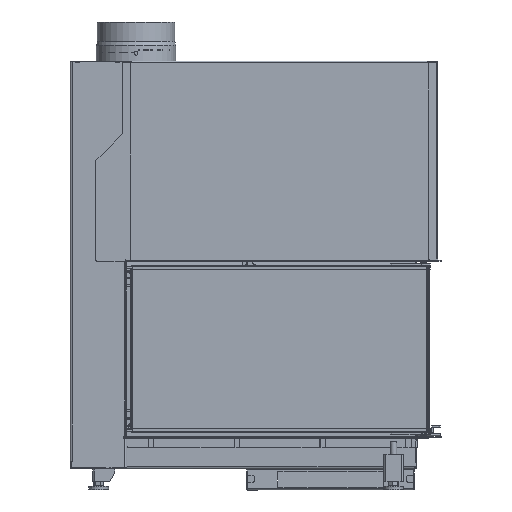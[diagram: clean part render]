
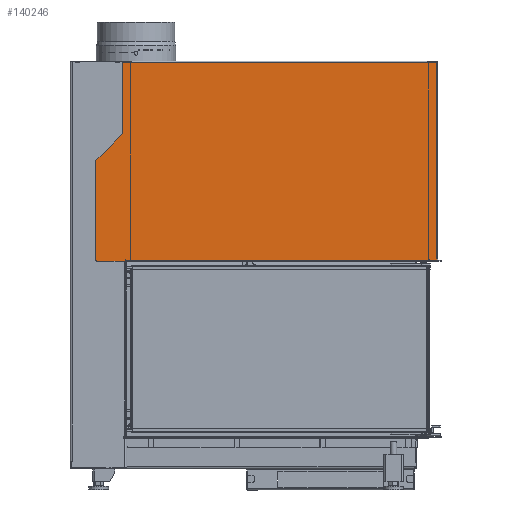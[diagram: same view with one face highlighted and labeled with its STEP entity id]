
A CAD part, left-side view. The second image highlights one B-rep face of the part: STEP entity #140246.
In plain terms, the highlighted planar face has unit normal (-1, 0, 0).
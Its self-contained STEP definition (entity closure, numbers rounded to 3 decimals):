
#2705=CIRCLE('',#149018,3.);
#2706=CIRCLE('',#149019,1.);
#2707=CIRCLE('',#149020,0.1);
#2708=CIRCLE('',#149021,3.);
#2709=CIRCLE('',#149022,3.);
#2710=CIRCLE('',#149023,0.1);
#2711=CIRCLE('',#149024,3.);
#2712=CIRCLE('',#149025,3.);
#7749=PLANE('',#149017);
#16329=FACE_OUTER_BOUND('',#24053,.T.);
#24053=EDGE_LOOP('',(#100440,#100441,#100442,#100443,#100444,#100445,#100446,
#100447,#100448,#100449,#100450,#100451,#100452,#100453,#100454,#100455,
#100456,#100457,#100458));
#33851=LINE('',#211555,#47875);
#33852=LINE('',#211559,#47876);
#33853=LINE('',#211563,#47877);
#33854=LINE('',#211565,#47878);
#33855=LINE('',#211567,#47879);
#33856=LINE('',#211571,#47880);
#33857=LINE('',#211577,#47881);
#33858=LINE('',#211579,#47882);
#33859=LINE('',#211581,#47883);
#33860=LINE('',#211585,#47884);
#33861=LINE('',#211588,#47885);
#47875=VECTOR('',#166588,10.);
#47876=VECTOR('',#166591,10.);
#47877=VECTOR('',#166594,10.);
#47878=VECTOR('',#166595,10.);
#47879=VECTOR('',#166596,10.);
#47880=VECTOR('',#166599,10.);
#47881=VECTOR('',#166604,10.);
#47882=VECTOR('',#166605,10.);
#47883=VECTOR('',#166606,10.);
#47884=VECTOR('',#166609,10.);
#47885=VECTOR('',#166612,10.);
#62036=VERTEX_POINT('',#211551);
#62037=VERTEX_POINT('',#211552);
#62038=VERTEX_POINT('',#211554);
#62039=VERTEX_POINT('',#211556);
#62040=VERTEX_POINT('',#211558);
#62041=VERTEX_POINT('',#211560);
#62042=VERTEX_POINT('',#211562);
#62043=VERTEX_POINT('',#211564);
#62044=VERTEX_POINT('',#211566);
#62045=VERTEX_POINT('',#211568);
#62046=VERTEX_POINT('',#211570);
#62047=VERTEX_POINT('',#211572);
#62048=VERTEX_POINT('',#211574);
#62049=VERTEX_POINT('',#211576);
#62050=VERTEX_POINT('',#211578);
#62051=VERTEX_POINT('',#211580);
#62052=VERTEX_POINT('',#211582);
#62053=VERTEX_POINT('',#211584);
#62054=VERTEX_POINT('',#211586);
#76455=EDGE_CURVE('',#62036,#62037,#2705,.T.);
#76456=EDGE_CURVE('',#62038,#62036,#33851,.T.);
#76457=EDGE_CURVE('',#62039,#62038,#2706,.T.);
#76458=EDGE_CURVE('',#62039,#62040,#33852,.T.);
#76459=EDGE_CURVE('',#62040,#62041,#2707,.T.);
#76460=EDGE_CURVE('',#62041,#62042,#33853,.T.);
#76461=EDGE_CURVE('',#62042,#62043,#33854,.T.);
#76462=EDGE_CURVE('',#62043,#62044,#33855,.T.);
#76463=EDGE_CURVE('',#62045,#62044,#2708,.T.);
#76464=EDGE_CURVE('',#62046,#62045,#33856,.T.);
#76465=EDGE_CURVE('',#62047,#62046,#2709,.T.);
#76466=EDGE_CURVE('',#62047,#62048,#2710,.T.);
#76467=EDGE_CURVE('',#62048,#62049,#33857,.T.);
#76468=EDGE_CURVE('',#62050,#62049,#33858,.T.);
#76469=EDGE_CURVE('',#62051,#62050,#33859,.T.);
#76470=EDGE_CURVE('',#62052,#62051,#2711,.T.);
#76471=EDGE_CURVE('',#62052,#62053,#33860,.T.);
#76472=EDGE_CURVE('',#62054,#62053,#2712,.T.);
#76473=EDGE_CURVE('',#62054,#62037,#33861,.T.);
#100440=ORIENTED_EDGE('',*,*,#76455,.F.);
#100441=ORIENTED_EDGE('',*,*,#76456,.F.);
#100442=ORIENTED_EDGE('',*,*,#76457,.F.);
#100443=ORIENTED_EDGE('',*,*,#76458,.T.);
#100444=ORIENTED_EDGE('',*,*,#76459,.T.);
#100445=ORIENTED_EDGE('',*,*,#76460,.T.);
#100446=ORIENTED_EDGE('',*,*,#76461,.T.);
#100447=ORIENTED_EDGE('',*,*,#76462,.T.);
#100448=ORIENTED_EDGE('',*,*,#76463,.F.);
#100449=ORIENTED_EDGE('',*,*,#76464,.F.);
#100450=ORIENTED_EDGE('',*,*,#76465,.F.);
#100451=ORIENTED_EDGE('',*,*,#76466,.T.);
#100452=ORIENTED_EDGE('',*,*,#76467,.T.);
#100453=ORIENTED_EDGE('',*,*,#76468,.F.);
#100454=ORIENTED_EDGE('',*,*,#76469,.F.);
#100455=ORIENTED_EDGE('',*,*,#76470,.F.);
#100456=ORIENTED_EDGE('',*,*,#76471,.T.);
#100457=ORIENTED_EDGE('',*,*,#76472,.F.);
#100458=ORIENTED_EDGE('',*,*,#76473,.T.);
#140246=ADVANCED_FACE('',(#16329),#7749,.T.);
#149017=AXIS2_PLACEMENT_3D('',#211550,#166584,#166585);
#149018=AXIS2_PLACEMENT_3D('',#211553,#166586,#166587);
#149019=AXIS2_PLACEMENT_3D('',#211557,#166589,#166590);
#149020=AXIS2_PLACEMENT_3D('',#211561,#166592,#166593);
#149021=AXIS2_PLACEMENT_3D('',#211569,#166597,#166598);
#149022=AXIS2_PLACEMENT_3D('',#211573,#166600,#166601);
#149023=AXIS2_PLACEMENT_3D('',#211575,#166602,#166603);
#149024=AXIS2_PLACEMENT_3D('',#211583,#166607,#166608);
#149025=AXIS2_PLACEMENT_3D('',#211587,#166610,#166611);
#166584=DIRECTION('center_axis',(-1.,0.,0.));
#166585=DIRECTION('ref_axis',(0.,-1.,0.));
#166586=DIRECTION('center_axis',(1.,0.,0.));
#166587=DIRECTION('ref_axis',(0.,0.707,-0.707));
#166588=DIRECTION('',(0.,1.,0.));
#166589=DIRECTION('center_axis',(1.,0.,0.));
#166590=DIRECTION('ref_axis',(0.,-0.707,-0.707));
#166591=DIRECTION('',(0.,0.,1.));
#166592=DIRECTION('center_axis',(1.,0.,0.));
#166593=DIRECTION('ref_axis',(0.,-1.,0.));
#166594=DIRECTION('',(0.,0.,-1.));
#166595=DIRECTION('',(0.,-1.,0.));
#166596=DIRECTION('',(0.,0.,1.));
#166597=DIRECTION('center_axis',(1.,0.,0.));
#166598=DIRECTION('ref_axis',(0.,-0.707,
0.707));
#166599=DIRECTION('',(0.,-1.,0.));
#166600=DIRECTION('center_axis',(1.,0.,0.));
#166601=DIRECTION('ref_axis',(0.,0.,
-1.));
#166602=DIRECTION('center_axis',(1.,0.,0.));
#166603=DIRECTION('ref_axis',(0.,1.,0.));
#166604=DIRECTION('',(0.,0.,1.));
#166605=DIRECTION('',(0.,-1.,0.));
#166606=DIRECTION('',(0.,0.,1.));
#166607=DIRECTION('center_axis',(-1.,0.,0.));
#166608=DIRECTION('ref_axis',(0.,-0.924,-0.383));
#166609=DIRECTION('',(0.,0.707,-0.707));
#166610=DIRECTION('center_axis',(1.,0.,0.));
#166611=DIRECTION('ref_axis',(0.,0.924,0.383));
#166612=DIRECTION('',(0.,0.,-1.));
#211550=CARTESIAN_POINT('Origin',(-270.,-93.496,839.941));
#211551=CARTESIAN_POINT('',(-270.,375.504,532.5));
#211552=CARTESIAN_POINT('',(-270.,378.504,535.5));
#211553=CARTESIAN_POINT('Origin',(-270.,375.504,535.5));
#211554=CARTESIAN_POINT('',(-270.,302.704,532.5));
#211555=CARTESIAN_POINT('',(-270.,-495.496,532.5));
#211556=CARTESIAN_POINT('',(-270.,301.704,533.5));
#211557=CARTESIAN_POINT('Origin',(-270.,302.704,533.5));
#211558=CARTESIAN_POINT('',(-270.,301.704,535.35));
#211559=CARTESIAN_POINT('',(-270.,301.704,687.646));
#211560=CARTESIAN_POINT('',(-270.,301.504,535.35));
#211561=CARTESIAN_POINT('Origin',(-270.,301.604,535.35));
#211562=CARTESIAN_POINT('',(-270.,301.504,535.25));
#211563=CARTESIAN_POINT('',(-270.,301.504,686.221));
#211564=CARTESIAN_POINT('',(-270.,-495.496,535.25));
#211565=CARTESIAN_POINT('',(-270.,-294.496,535.25));
#211566=CARTESIAN_POINT('',(-270.,-495.496,1039.25));
#211567=CARTESIAN_POINT('',(-270.,-495.496,532.5));
#211568=CARTESIAN_POINT('',(-270.,-492.496,1042.25));
#211569=CARTESIAN_POINT('Origin',(-270.,-492.496,1039.25));
#211570=CARTESIAN_POINT('',(-270.,-474.426,1042.25));
#211571=CARTESIAN_POINT('',(-270.,-93.496,1042.25));
#211572=CARTESIAN_POINT('',(-270.,-473.139,1041.96));
#211573=CARTESIAN_POINT('Origin',(-270.,-474.426,1039.25));
#211574=CARTESIAN_POINT('',(-270.,-472.996,1042.05));
#211575=CARTESIAN_POINT('Origin',(-270.,-473.096,1042.05));
#211576=CARTESIAN_POINT('',(-270.,-472.996,1042.25));
#211577=CARTESIAN_POINT('',(-270.,-472.996,941.096));
#211578=CARTESIAN_POINT('',(-270.,308.504,1042.25));
#211579=CARTESIAN_POINT('',(-270.,-93.496,1042.25));
#211580=CARTESIAN_POINT('',(-270.,308.504,860.743));
#211581=CARTESIAN_POINT('',(-270.,308.504,532.5));
#211582=CARTESIAN_POINT('',(-270.,309.383,858.621));
#211583=CARTESIAN_POINT('Origin',(-270.,311.504,860.743));
#211584=CARTESIAN_POINT('',(-270.,377.625,790.379));
#211585=CARTESIAN_POINT('',(-270.,212.894,955.11));
#211586=CARTESIAN_POINT('',(-270.,378.504,788.257));
#211587=CARTESIAN_POINT('Origin',(-270.,375.504,788.257));
#211588=CARTESIAN_POINT('',(-270.,378.504,859.5));
